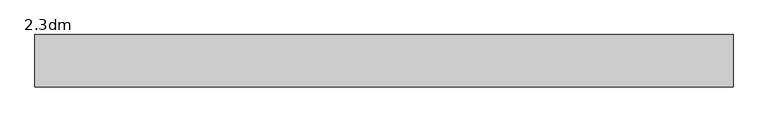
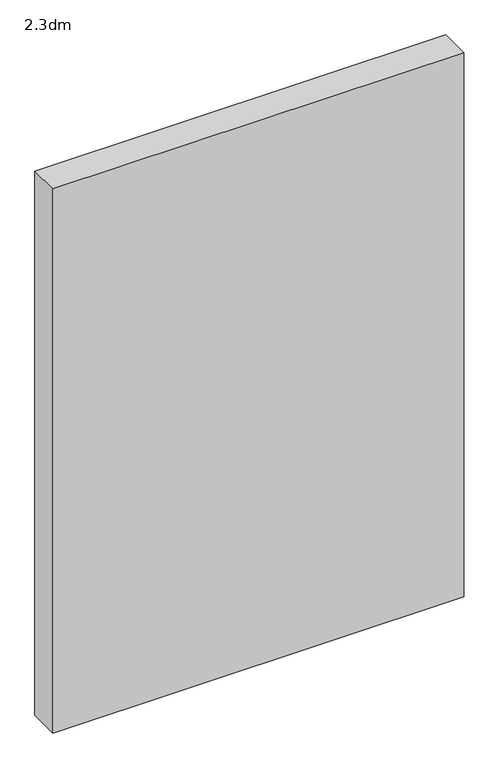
"""IFC4 building model written with IfcOpenShell, lengths in millimetres: proxy geometry, 2.3dm."""

from ifc_helpers import new_model, si_unit, origin, origin_with_axes, place, context, project, spatial, polyline, outline, extrude, source, transform, mapped, element, save


def proxy_2_3dm_eb5da68a(model_context):
    return source(origin(), model_context, "Body", "SweptSolid", [
        extrude(outline(polyline([(2254.2096042, 12.0), (2254.2096042, 162.0), (4254.2096042, 162.0), (4254.2096042, 12.0), (2254.2096042, 12.0)])), origin_with_axes(), (0.0, 0.0, 1.0), 2800.0),
    ])


if __name__ == "__main__":
    model = new_model("IFC4")
    model_context = context("Model", 3, world=origin())
    ifc_project = project(units=[si_unit("LENGTHUNIT", "METRE", prefix="MILLI")], contexts=[model_context])
    site = spatial("IfcSite", under=ifc_project)
    building = spatial("IfcBuilding", under=site)
    placement = place(None, origin())
    proxy_2_3dm_shape = proxy_2_3dm_eb5da68a(model_context)
    element("IfcBuildingElementProxy", 1, Name="2.3dm", ObjectType="2.3dm", at=placement, inside=building, context=model_context, shape_type="MappedRepresentation", body=[
        mapped(proxy_2_3dm_shape, transform((0.0, 0.0, 0.0), x_axis=(1.0, 0.0, 0.0), y_axis=(0.0, 1.0, 0.0), z_axis=(0.0, 0.0, 1.0))),
    ])
    save(model, "model.ifc")
